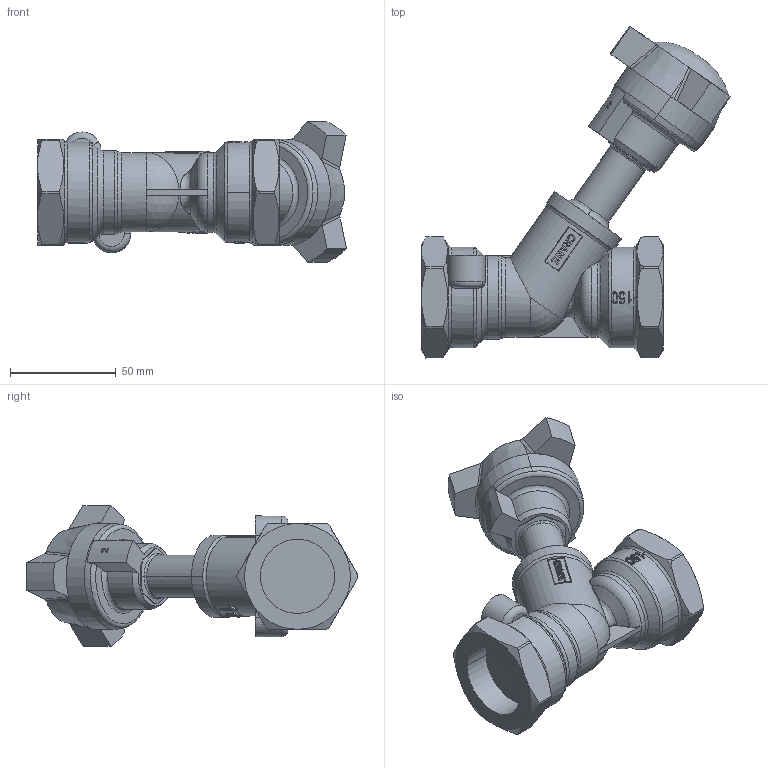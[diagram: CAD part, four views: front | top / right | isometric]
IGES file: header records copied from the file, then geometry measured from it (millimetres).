
Global section: file name: No Iges File Name specified; native system: AutoDesk Inventor R12.0; preprocessor: AutoDesk Inventor Iges Exporter R12.0; date: 20110304.153251; units: millimetre
Bounding box: 145.84 x 156.7 x 66.44 mm (x, y, z)
Volume: 279459.7 mm3; surface area: 42174.8 mm2
Topology: 1 solids, 1 shells, 793 faces, 2151 edges, 1405 vertices
Faces by surface type: bspline 349, plane 318, cylinder 71, cone 26, torus 18, revolution 9, sphere 2
